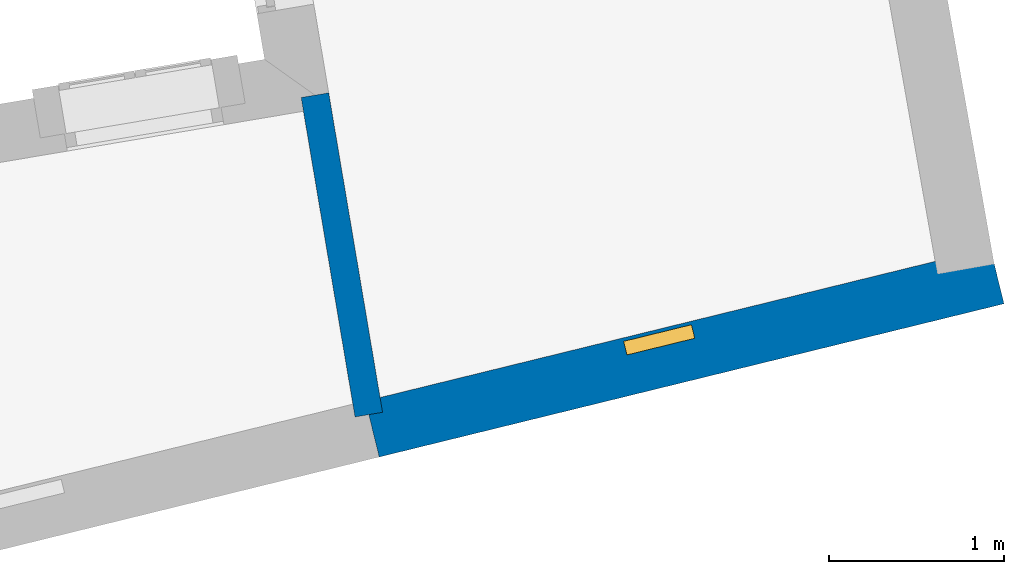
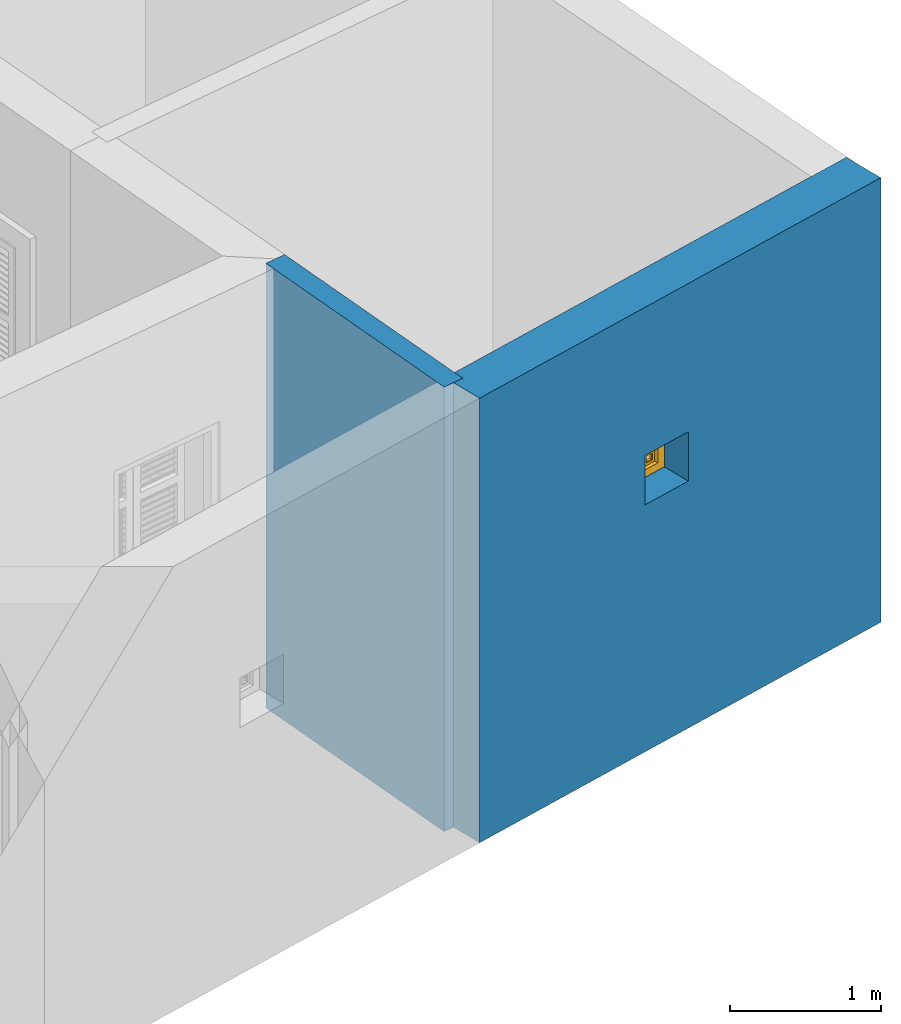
# One storey, part 13 of 15: 2 walls, 1 window, 1 opening.
"""IFC4 building model written with IfcOpenShell, lengths in metres."""

import ifcopenshell
import ifcopenshell.guid

model = None  # the IFC model being written
_history = None  # IfcOwnerHistory: only IFC2X3 demands one
_inside = {}  # id of a spatial element -> (the spatial element, [elements in it])
_under = {}  # id of a project, library or spatial element -> (it, [spatial elements below it])
_declared = {}  # id of a project -> (the project, [libraries it declares])
_typed = {}  # id of a type object -> (the type object, [elements of that type])
_made_of = {}  # id of a material, layer set ... -> (it, [elements and type objects made of it])


def new_model(schema):
    """Start an empty IFC model of exactly this schema.

    Asked for "IFC4X3", IfcOpenShell would pick the latest addendum, in which some entities
    have other attributes; the version numbers below select the first issue.
    IFC2X3 requires an IfcOwnerHistory on every rooted entity: one is made here for all.
    """
    global model, _history
    if schema == "IFC4X3":
        model = ifcopenshell.file(schema_version=(4, 3, 0, 0))
    else:
        model = ifcopenshell.file(schema=schema)
    _inside.clear()
    _under.clear()
    _declared.clear()
    _typed.clear()
    _made_of.clear()
    _history = None
    if model.schema == "IFC2X3":
        org = make("IfcOrganization", Name="unknown")
        user = make(
            "IfcPersonAndOrganization",
            ThePerson=make("IfcPerson", FamilyName="unknown"),
            TheOrganization=org,
        )
        app = make(
            "IfcApplication",
            ApplicationDeveloper=org,
            Version="unknown",
            ApplicationFullName="unknown",
            ApplicationIdentifier="unknown",
        )
        _history = make(
            "IfcOwnerHistory",
            OwningUser=user,
            OwningApplication=app,
            ChangeAction="ADDED",
            CreationDate=0,
        )
    return model


def make(cls, **values):
    """One entity of the class cls with the attributes given. An attribute that is None is left unset."""
    return model.create_entity(
        cls, **{name: value for name, value in values.items() if value is not None}
    )


def rooted(cls, **values):
    """An entity with a GlobalId (a new one), such as an element, a storey or a relation."""
    return make(cls, GlobalId=ifcopenshell.guid.new(), OwnerHistory=_history, **values)


def si_unit(unit_type, name, prefix=None):
    """IfcSIUnit, for example si_unit("LENGTHUNIT", "METRE", prefix="MILLI")."""
    return make("IfcSIUnit", UnitType=unit_type, Prefix=prefix, Name=name)


def assignment(units):
    """IfcUnitAssignment: the units of a project."""
    return None if units is None else make("IfcUnitAssignment", Units=units)


def point(xyz):
    """IfcCartesianPoint."""
    return None if xyz is None else make("IfcCartesianPoint", Coordinates=xyz)


def direction(xyz):
    """IfcDirection."""
    return None if xyz is None else make("IfcDirection", DirectionRatios=xyz)


def frame(location, z_axis=None, x_axis=None):
    """IfcAxis2Placement3D, a coordinate frame: its origin and axes. An axis left out is left unset."""
    return make(
        "IfcAxis2Placement3D",
        Location=point(location),
        Axis=direction(z_axis),
        RefDirection=direction(x_axis),
    )


def origin():
    """The frame at (0, 0, 0) with its axes left unset."""
    return frame((0.0, 0.0, 0.0))


def origin_with_axes():
    """The frame at (0, 0, 0) with the z axis (0, 0, 1) and the x axis (1, 0, 0) written out."""
    return frame((0.0, 0.0, 0.0), z_axis=(0.0, 0.0, 1.0), x_axis=(1.0, 0.0, 0.0))


def place(relative_to, where):
    """IfcLocalPlacement: puts the frame where relative to a parent placement (None: the world)."""
    return make(
        "IfcLocalPlacement", PlacementRelTo=relative_to, RelativePlacement=where
    )


def context(
    kind, dimensions, precision=None, world=None, true_north=None, identifier=None
):
    """IfcGeometricRepresentationContext, for example the 3D "Model" context."""
    return make(
        "IfcGeometricRepresentationContext",
        ContextIdentifier=identifier,
        ContextType=kind,
        CoordinateSpaceDimension=dimensions,
        Precision=precision,
        WorldCoordinateSystem=world,
        TrueNorth=true_north,
    )


def subcontext(parent, identifier, kind, view, scale=None):
    """IfcGeometricRepresentationSubContext, for example "Body" below "Model"."""
    return make(
        "IfcGeometricRepresentationSubContext",
        ContextIdentifier=identifier,
        ContextType=kind,
        ParentContext=parent,
        TargetScale=scale,
        TargetView=view,
    )


def project(units=None, contexts=None):
    """IfcProject with its units and contexts."""
    return rooted(
        "IfcProject",
        Name="project",
        RepresentationContexts=contexts,
        UnitsInContext=assignment(units),
    )


def spatial(cls, under=None, at=None, **own):
    """A site, building, storey or space (cls), placed at a placement, below another one or the project."""
    s = rooted(cls, ObjectPlacement=at, **own)
    if under is not None:
        _under.setdefault(under.id(), (under, []))[1].append(s)
    return s


def polyline(points):
    """IfcPolyline through the points."""
    return make("IfcPolyline", Points=[point(p) for p in points])


def outline(outer, holes=None, kind="AREA"):
    """IfcArbitraryClosedProfileDef: a profile drawn as a closed curve; with holes, ...WithVoids."""
    if holes is None:
        return make("IfcArbitraryClosedProfileDef", ProfileType=kind, OuterCurve=outer)
    return make(
        "IfcArbitraryProfileDefWithVoids",
        ProfileType=kind,
        OuterCurve=outer,
        InnerCurves=holes,
    )


def extrude(swept, where, along, depth):
    """IfcExtrudedAreaSolid: the profile swept, set in the frame where, extruded along a direction by depth."""
    return make(
        "IfcExtrudedAreaSolid",
        SweptArea=swept,
        Position=where,
        ExtrudedDirection=direction(along),
        Depth=depth,
    )


def faces_of(points, faces, orient=None, outer=None):
    """IfcFace entities. A face is a list of loops; a loop is a list of indices into points, from 0.

    orient and outer hold one flag for each loop. By default every Orientation is true, the
    first loop of a face is its IfcFaceOuterBound and the others are IfcFaceBound.
    """
    made = []
    for i, loops in enumerate(faces):
        bounds = []
        for j, loop in enumerate(loops):
            is_outer = j == 0 if outer is None else outer[i][j]
            bounds.append(
                make(
                    "IfcFaceOuterBound" if is_outer else "IfcFaceBound",
                    Bound=make("IfcPolyLoop", Polygon=[points[k] for k in loop]),
                    Orientation=True if orient is None else orient[i][j],
                )
            )
        made.append(make("IfcFace", Bounds=bounds))
    return made


def faceted_brep(points, faces, orient=None, outer=None, voids=None):
    """IfcFacetedBrep: a solid bounded by flat faces; with voids (closed shells), ...WithVoids."""
    shared = [point(p) for p in points]
    hull = make("IfcClosedShell", CfsFaces=faces_of(shared, faces, orient, outer))
    if voids is None:
        return make("IfcFacetedBrep", Outer=hull)
    return make(
        "IfcFacetedBrepWithVoids",
        Outer=hull,
        Voids=[
            make(cls, CfsFaces=faces_of(shared, fs, o, b)) for cls, fs, o, b in voids
        ],
    )


def shape(context_of_items, identifier, shape_type, items):
    """IfcShapeRepresentation: the items that make up one representation, for example the "Body"."""
    return make(
        "IfcShapeRepresentation",
        ContextOfItems=context_of_items,
        RepresentationIdentifier=identifier,
        RepresentationType=shape_type,
        Items=items,
    )


def source(mapping_origin, context_of_items, identifier, shape_type, items):
    """IfcRepresentationMap: a shape defined once, which mapped items show again and again."""
    return make(
        "IfcRepresentationMap",
        MappingOrigin=mapping_origin,
        MappedRepresentation=shape(context_of_items, identifier, shape_type, items),
    )


def transform(
    local_origin,
    x_axis=None,
    y_axis=None,
    z_axis=None,
    scale=None,
    scale2=None,
    scale3=None,
    uniform=True,
):
    """IfcCartesianTransformationOperator3D, or its non-uniform kind. x_axis, y_axis, z_axis: its Axis1, 2, 3."""
    if uniform:
        return make(
            "IfcCartesianTransformationOperator3D",
            Axis1=direction(x_axis),
            Axis2=direction(y_axis),
            LocalOrigin=point(local_origin),
            Scale=scale,
            Axis3=direction(z_axis),
        )
    return make(
        "IfcCartesianTransformationOperator3DnonUniform",
        Axis1=direction(x_axis),
        Axis2=direction(y_axis),
        LocalOrigin=point(local_origin),
        Scale=scale,
        Axis3=direction(z_axis),
        Scale2=scale2,
        Scale3=scale3,
    )


def mapped(mapping_source, mapping_target):
    """IfcMappedItem: shows the shape of a source again, moved by a transform."""
    return make(
        "IfcMappedItem", MappingSource=mapping_source, MappingTarget=mapping_target
    )


def material(Name=None, Category=None):
    """IfcMaterial."""
    return make("IfcMaterial", Name=Name, Category=Category)


def layer(
    of_material, thickness, ventilated=None, Name=None, Category=None, Priority=None
):
    """IfcMaterialLayer: one layer of a wall or slab, of a material (None: an air gap)."""
    return make(
        "IfcMaterialLayer",
        Material=of_material,
        LayerThickness=thickness,
        IsVentilated=ventilated,
        Name=Name,
        Category=Category,
        Priority=Priority,
    )


def layer_set(layers, Name=None):
    """IfcMaterialLayerSet."""
    return make("IfcMaterialLayerSet", MaterialLayers=layers, LayerSetName=Name)


def layer_usage(for_layer_set, set_direction, sense, offset, extent=None):
    """IfcMaterialLayerSetUsage: how a layer set lies in its element."""
    return make(
        "IfcMaterialLayerSetUsage",
        ForLayerSet=for_layer_set,
        LayerSetDirection=set_direction,
        DirectionSense=sense,
        OffsetFromReferenceLine=offset,
        ReferenceExtent=extent,
    )


def made_of(thing, what):
    """Note that an element or type object is made of a material, layer set ...; save() writes the relation."""
    if what is not None:
        _made_of.setdefault(what.id(), (what, []))[1].append(thing)
    return thing


def type_object(cls, material=None, **own):
    """A type object (cls), such as IfcWallType, which elements share."""
    return made_of(rooted(cls, **own), material)


def type_shapes(of_type, sources):
    """Give a type object the sources (RepresentationMaps) that its elements show as mapped items."""
    of_type.RepresentationMaps = sources


def element(
    cls,
    number,
    at=None,
    inside=None,
    cuts=None,
    type_object=None,
    material=None,
    context=None,
    identifier="Body",
    shape_type=None,
    held_by="IfcProductDefinitionShape",
    body=None,
    shapes=None,
    **own,
):
    """One element of the class cls, such as IfcWall. Its Tag is "e" and its number.

    at: its placement. inside: the storey or other place that contains it. cuts: it is an
    opening in that element (IfcRelVoidsElement). A single representation is given by context,
    identifier, shape_type and body (its items); several are given by shapes. held_by: the class
    of the entity that holds the representations. save() writes the other relations.
    """
    e = rooted(cls, Tag="e%d" % number, ObjectPlacement=at, **own)
    if body is not None:
        shapes = [shape(context, identifier, shape_type, body)]
    if shapes is not None:
        e.Representation = make(held_by, Representations=shapes)
    if inside is not None:
        _inside.setdefault(inside.id(), (inside, []))[1].append(e)
    if cuts is not None:
        rooted(
            "IfcRelVoidsElement", RelatingBuildingElement=cuts, RelatedOpeningElement=e
        )
    if type_object is not None:
        _typed.setdefault(type_object.id(), (type_object, []))[1].append(e)
    return made_of(e, material)


def fill(opening, filler):
    """IfcRelFillsElement: the door or window that sits in an opening."""
    return rooted(
        "IfcRelFillsElement",
        RelatingOpeningElement=opening,
        RelatedBuildingElement=filler,
    )


def aggregate(whole, parts):
    """IfcRelAggregates: a whole, such as a stair, and the parts it consists of."""
    return rooted("IfcRelAggregates", RelatingObject=whole, RelatedObjects=parts)


def save(model, path):
    """Write the relations noted so far, then the file.

    IfcRelAggregates (storeys below a building ...), IfcRelContainedInSpatialStructure (elements
    in a storey), IfcRelDefinesByType, IfcRelAssociatesMaterial and IfcRelDeclares: one each for
    every whole, place, type object, material and project.
    """
    for whole, parts in _under.values():
        aggregate(whole, parts)
    for where, things in _inside.values():
        rooted(
            "IfcRelContainedInSpatialStructure",
            RelatedElements=things,
            RelatingStructure=where,
        )
    for kind, things in _typed.values():
        rooted("IfcRelDefinesByType", RelatedObjects=things, RelatingType=kind)
    for what, things in _made_of.values():
        rooted("IfcRelAssociatesMaterial", RelatedObjects=things, RelatingMaterial=what)
    for by, libraries in _declared.values():
        rooted("IfcRelDeclares", RelatingContext=by, RelatedDefinitions=libraries)
    model.write(path)


model = new_model("IFC4")

# Units and contexts
model_context = context("Model", 3, world=origin_with_axes())
body_context = subcontext(model_context, "Body", "Model", "MODEL_VIEW")
ifc_project = project(units=[si_unit("PLANEANGLEUNIT", "RADIAN"), si_unit("MASSUNIT", "GRAM", prefix="KILO"), si_unit("FORCEUNIT", "NEWTON", prefix="KILO"), si_unit("LENGTHUNIT", "METRE"), si_unit("AREAUNIT", "SQUARE_METRE"), si_unit("VOLUMEUNIT", "CUBIC_METRE")], contexts=[model_context, model_context])

# Site, building, storey
site_placement = place(None, origin_with_axes())
site = spatial("IfcSite", under=ifc_project, at=site_placement, Name="Site plot-6", CompositionType="ELEMENT")
building_placement = place(None, origin_with_axes())
building = spatial("IfcBuilding", under=site, at=building_placement, Name="Building plot-6", CompositionType="ELEMENT")
storey_placement = place(None, origin_with_axes())
storey = spatial("IfcBuildingStorey", under=building, at=storey_placement, Name="plot-6 0", CompositionType="ELEMENT", Elevation=0.0)

# Wall, opening, window
ifc_material_1 = material(Name="Masonry")
ifc_layer_1 = layer(ifc_material_1, 0.33, ventilated=False)
ifc_layer_set_1 = layer_set([ifc_layer_1], Name="exterior_0.08_0.25")
ifc_layer_usage_1 = layer_usage(ifc_layer_set_1, "AXIS2", "POSITIVE", -0.25)
wall_type_1 = type_object("IfcWallType", Name="exterior_0.08_0.25", PredefinedType="SOLIDWALL", material=ifc_layer_set_1)
wall_1_placement = place(storey_placement, frame((-2.13361527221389, -1.89135412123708, 0.0), z_axis=(0.0, 0.0, 1.0), x_axis=(0.971213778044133, 0.238209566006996, 0.0)))
wall_1 = element("IfcWall", 1, at=wall_1_placement, inside=storey, type_object=wall_type_1, material=ifc_layer_usage_1, Name="exterior", context=body_context, shape_type="SweptSolid", body=[
    extrude(outline(polyline([(-6.61556863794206e-17, 0.08), (1.81841538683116e-16, -0.25), (3.68558857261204, -0.25), (3.68558857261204, 0.08), (-6.61556863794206e-17, 0.08)])), origin_with_axes(), (0.0, 0.0, 1.0), 3.6),
])
opening_placement = place(wall_1_placement, frame((1.51779428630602, 0.0, 2.0)))
opening = element("IfcOpeningElement", 2, at=opening_placement, cuts=wall_1, Name="My Opening", ObjectType="Opening", context=body_context, shape_type="SweptSolid", body=[
    extrude(outline(polyline([(0.0, -0.27), (0.4, -0.27), (0.4, 1.1), (0.0, 1.1), (0.0, -0.27)])), origin_with_axes(), (0.0, 0.0, 1.0), 0.4),
])
window_type = type_object("IfcWindowType", Name="barred_window", PartitioningType="DOUBLE_PANEL_HORIZONTAL", PredefinedType="NOTDEFINED")
shared_shape = source(origin(), body_context, "Body", "Brep", [
    faceted_brep([(0.4, 0.25, 0.4), (0.0, 0.25, 0.4), (0.06, 0.25, 0.34), (0.34, 0.25, 0.34), (0.06, 0.33, 0.34), (0.34, 0.33, 0.34), (0.34, 0.25, 0.06), (0.4, 0.25, 0.0), (0.4, 0.33, 0.4), (0.0, 0.33, 0.4), (0.0, 0.25, 0.0), (0.06, 0.25, 0.06), (0.06, 0.33, 0.06), (0.34, 0.33, 0.06), (0.4, 0.33, 0.0), (0.0, 0.33, 0.0), (0.136152, 0.28, 0.08), (0.08, 0.28, 0.08), (0.06, 0.28, 0.06), (0.136152, 0.28, 0.06), (0.136152, 0.29, 0.08), (0.08, 0.29, 0.08), (0.06, 0.28, 0.136152), (0.08, 0.28, 0.136152), (0.06, 0.29, 0.06), (0.136152, 0.29, 0.06), (0.170294, 0.28, 0.08), (0.170294, 0.28, 0.06), (0.136152, 0.28, 0.136152), (0.136152, 0.29, 0.136152), (0.08, 0.29, 0.136152), (0.06, 0.29, 0.136152), (0.08, 0.28, 0.170294), (0.06, 0.28, 0.170294), (0.170294, 0.29, 0.06), (0.229706, 0.28, 0.08), (0.229706, 0.28, 0.06), (0.156152, 0.28, 0.094142), (0.156152, 0.28, 0.136152), (0.185858, 0.28, 0.123848), (0.185858, 0.29, 0.123848), (0.156152, 0.29, 0.094142), (0.156152, 0.29, 0.136152), (0.229706, 0.29, 0.08), (0.170294, 0.29, 0.08), (0.2, 0.28, 0.109706), (0.2, 0.29, 0.109706), (0.06, 0.29, 0.170294), (0.094142, 0.28, 0.156152), (0.08, 0.28, 0.229706), (0.06, 0.28, 0.229706), (0.229706, 0.29, 0.06), (0.263848, 0.28, 0.08), (0.263848, 0.28, 0.06), (0.156152, 0.28, 0.156152), (0.136152, 0.28, 0.156152), (0.173553, 0.28, 0.136152), (0.173553, 0.29, 0.136152), (0.156152, 0.29, 0.156152), (0.136152, 0.29, 0.156152), (0.094142, 0.29, 0.156152), (0.08, 0.29, 0.170294), (0.06, 0.29, 0.229706), (0.123848, 0.28, 0.185858), (0.109706, 0.28, 0.2), (0.08, 0.29, 0.229706), (0.08, 0.28, 0.263848), (0.06, 0.28, 0.263848), (0.263848, 0.29, 0.06), (0.2, 0.28, 0.13799), (0.214142, 0.28, 0.123848), (0.34, 0.28, 0.06), (0.32, 0.28, 0.08), (0.181838, 0.28, 0.156152), (0.136152, 0.28, 0.173553), (0.156152, 0.28, 0.181838), (0.181838, 0.29, 0.156152), (0.2, 0.29, 0.13799), (0.214142, 0.29, 0.123848), (0.136152, 0.29, 0.173553), (0.156152, 0.29, 0.181838), (0.243848, 0.28, 0.094142), (0.243848, 0.29, 0.094142), (0.263848, 0.28, 0.136152), (0.263848, 0.29, 0.08), (0.263848, 0.29, 0.136152), (0.32, 0.29, 0.08), (0.243848, 0.28, 0.136152), (0.243848, 0.29, 0.136152), (0.06, 0.29, 0.263848), (0.123848, 0.29, 0.185858), (0.13799, 0.28, 0.2), (0.123848, 0.28, 0.214142), (0.109706, 0.29, 0.2), (0.094142, 0.28, 0.243848), (0.08, 0.28, 0.32), (0.06, 0.28, 0.34), (0.34, 0.29, 0.06), (0.218162, 0.28, 0.156152), (0.226447, 0.28, 0.136152), (0.34, 0.28, 0.229706), (0.32, 0.28, 0.229706), (0.32, 0.28, 0.170294), (0.32, 0.28, 0.136152), (0.218162, 0.29, 0.156152), (0.226447, 0.29, 0.136152), (0.13799, 0.29, 0.2), (0.32, 0.29, 0.136152), (0.08, 0.29, 0.263848), (0.06, 0.29, 0.34), (0.136152, 0.28, 0.226447), (0.156152, 0.28, 0.218162), (0.094142, 0.29, 0.243848), (0.123848, 0.29, 0.214142), (0.136152, 0.28, 0.243848), (0.136152, 0.28, 0.263848), (0.08, 0.29, 0.32), (0.136152, 0.28, 0.34), (0.136152, 0.28, 0.32), (0.34, 0.29, 0.229706), (0.243848, 0.28, 0.156152), (0.263848, 0.28, 0.156152), (0.34, 0.28, 0.263848), (0.32, 0.28, 0.263848), (0.32, 0.29, 0.229706), (0.32, 0.29, 0.170294), (0.290294, 0.28, 0.2), (0.276152, 0.28, 0.185858), (0.305858, 0.28, 0.156152), (0.243848, 0.29, 0.156152), (0.263848, 0.29, 0.156152), (0.305858, 0.29, 0.156152), (0.276152, 0.29, 0.185858), (0.290294, 0.29, 0.2), (0.136152, 0.29, 0.34), (0.136152, 0.29, 0.226447), (0.156152, 0.29, 0.218162), (0.156152, 0.28, 0.243848), (0.136152, 0.29, 0.243848), (0.156152, 0.28, 0.263848), (0.136152, 0.29, 0.263848), (0.136152, 0.29, 0.32), (0.170294, 0.28, 0.32), (0.170294, 0.28, 0.34), (0.34, 0.29, 0.263848), (0.243848, 0.28, 0.181838), (0.263848, 0.28, 0.173553), (0.34, 0.28, 0.34), (0.32, 0.28, 0.32), (0.305858, 0.28, 0.243848), (0.276152, 0.28, 0.214142), (0.26201, 0.28, 0.2), (0.243848, 0.29, 0.181838), (0.263848, 0.29, 0.173553), (0.26201, 0.29, 0.2), (0.276152, 0.29, 0.214142), (0.32, 0.29, 0.263848), (0.170294, 0.29, 0.34), (0.156152, 0.29, 0.243848), (0.173553, 0.28, 0.263848), (0.181838, 0.28, 0.243848), (0.156152, 0.28, 0.305858), (0.229706, 0.28, 0.32), (0.229706, 0.28, 0.34), (0.34, 0.29, 0.34), (0.263848, 0.28, 0.34), (0.263848, 0.28, 0.32), (0.32, 0.29, 0.32), (0.263848, 0.28, 0.263848), (0.263848, 0.28, 0.243848), (0.305858, 0.29, 0.243848), (0.263848, 0.28, 0.226447), (0.243848, 0.28, 0.218162), (0.243848, 0.29, 0.218162), (0.263848, 0.29, 0.226447), (0.156152, 0.29, 0.263848), (0.170294, 0.29, 0.32), (0.229706, 0.29, 0.34), (0.181838, 0.29, 0.243848), (0.173553, 0.29, 0.263848), (0.185858, 0.28, 0.276152), (0.2, 0.28, 0.26201), (0.156152, 0.29, 0.305858), (0.229706, 0.29, 0.32), (0.263848, 0.29, 0.34), (0.263848, 0.29, 0.32), (0.263848, 0.29, 0.263848), (0.243848, 0.28, 0.243848), (0.243848, 0.28, 0.263848), (0.263848, 0.29, 0.243848), (0.243848, 0.29, 0.243848), (0.2, 0.29, 0.26201), (0.185858, 0.29, 0.276152), (0.214142, 0.28, 0.276152), (0.218162, 0.28, 0.243848), (0.226447, 0.28, 0.263848), (0.243848, 0.28, 0.305858), (0.2, 0.28, 0.290294), (0.2, 0.29, 0.290294), (0.243848, 0.29, 0.263848), (0.218162, 0.29, 0.243848), (0.214142, 0.29, 0.276152), (0.226447, 0.29, 0.263848), (0.243848, 0.29, 0.305858)], [[[0, 1, 2, 3]], [[3, 2, 4, 5]], [[3, 6, 7, 0]], [[1, 0, 8, 9]], [[1, 10, 11, 2]], [[2, 11, 12, 4]], [[9, 8, 5, 4]], [[6, 3, 5, 13]], [[6, 11, 10, 7]], [[0, 7, 14, 8]], [[10, 1, 9, 15]], [[11, 6, 13, 12]], [[4, 12, 15, 9]], [[8, 14, 13, 5]], [[7, 10, 15, 14]], [[12, 13, 14, 15]], [[16, 17, 18, 19]], [[17, 16, 20, 21]], [[22, 18, 17, 23]], [[19, 18, 24, 25]], [[26, 16, 19, 27]], [[16, 28, 29, 20]], [[21, 20, 25, 24]], [[23, 17, 21, 30]], [[18, 22, 31, 24]], [[23, 32, 33, 22]], [[27, 19, 25, 34]], [[35, 26, 27, 36]], [[28, 16, 37, 38]], [[37, 39, 40, 41]], [[38, 37, 41, 42]], [[20, 29, 42, 41]], [[26, 35, 43, 44]], [[45, 26, 44, 46]], [[20, 44, 34, 25]], [[28, 23, 30, 29]], [[24, 31, 30, 21]], [[22, 33, 47, 31]], [[48, 32, 23]], [[32, 49, 50, 33]], [[36, 27, 34, 51]], [[39, 37, 26, 45]], [[52, 35, 36, 53]], [[38, 54, 55, 28]], [[39, 56, 57, 40]], [[41, 40, 46, 44]], [[56, 38, 42, 57]], [[58, 42, 29, 59]], [[35, 45, 46, 43]], [[44, 43, 51, 34]], [[23, 28, 55, 48]], [[29, 30, 60, 59]], [[61, 30, 31, 47]], [[33, 50, 62, 47]], [[48, 63, 64, 32]], [[49, 32, 61, 65]], [[49, 66, 67, 50]], [[53, 36, 51, 68]], [[69, 39, 45, 70]], [[53, 71, 72, 52]], [[73, 54, 38, 56]], [[74, 55, 54, 75]], [[56, 39, 69, 73]], [[40, 57, 76, 77]], [[40, 77, 78, 46]], [[58, 76, 57, 42]], [[59, 79, 80, 58]], [[45, 35, 81, 70]], [[43, 46, 78, 82]], [[83, 52, 84, 85]], [[82, 84, 43]], [[52, 72, 86, 84]], [[43, 84, 68, 51]], [[44, 20, 41]], [[70, 81, 82, 78]], [[81, 87, 88, 82]], [[48, 55, 59, 60]], [[61, 60, 30]], [[65, 61, 47, 62]], [[50, 67, 89, 62]], [[63, 48, 60, 90]], [[63, 91, 92, 64]], [[32, 64, 93, 61]], [[64, 49, 65, 93]], [[94, 66, 49]], [[66, 95, 96, 67]], [[71, 53, 68, 97]], [[98, 69, 70, 99]], [[81, 52, 83, 87]], [[72, 71, 100]], [[100, 101, 102]], [[103, 72, 100]], [[100, 102, 103]], [[54, 73, 76, 58]], [[55, 74, 79, 59]], [[75, 54, 58, 80]], [[63, 74, 75, 91]], [[73, 69, 77, 76]], [[77, 104, 105, 78]], [[79, 90, 106, 80]], [[84, 82, 88, 85]], [[103, 83, 85, 107]], [[72, 103, 107, 86]], [[97, 68, 84, 86]], [[99, 70, 78, 105]], [[87, 99, 105, 88]], [[90, 60, 61, 93]], [[108, 65, 62, 89]], [[67, 96, 109, 89]], [[74, 63, 90, 79]], [[110, 92, 91, 111]], [[49, 64, 92, 94]], [[93, 65, 112, 113]], [[94, 114, 115, 66]], [[95, 66, 108, 116]], [[117, 96, 95, 118]], [[100, 71, 97, 119]], [[69, 98, 104, 77]], [[99, 87, 120, 98]], [[87, 83, 121, 120]], [[101, 100, 122, 123]], [[102, 101, 124, 125]], [[121, 83, 103]], [[103, 102, 126]], [[126, 127, 128]], [[128, 121, 103]], [[103, 126, 128]], [[91, 75, 80, 106]], [[88, 105, 104, 129]], [[106, 90, 93, 113]], [[85, 88, 129, 130]], [[107, 85, 130]], [[131, 132, 133]], [[107, 130, 131]], [[133, 125, 107]], [[107, 131, 133]], [[124, 119, 97]], [[97, 86, 107]], [[107, 125, 124]], [[97, 107, 124]], [[108, 112, 65]], [[116, 108, 89, 109]], [[96, 117, 134, 109]], [[92, 110, 135, 113]], [[111, 91, 106, 136]], [[114, 110, 111, 137]], [[94, 92, 113, 112]], [[114, 94, 112, 138]], [[114, 137, 139, 115]], [[66, 115, 140, 108]], [[118, 95, 116, 141]], [[118, 142, 143, 117]], [[122, 100, 119, 144]], [[98, 120, 129, 104]], [[145, 120, 121, 146]], [[122, 147, 148, 123]], [[123, 149, 101]], [[101, 126, 133, 124]], [[126, 102, 125, 133]], [[127, 126, 150, 151]], [[128, 127, 132, 131]], [[121, 128, 131, 130]], [[113, 135, 136, 106]], [[129, 152, 153, 130]], [[133, 132, 154, 155]], [[119, 124, 156, 144]], [[138, 112, 108, 140]], [[109, 134, 141, 116]], [[117, 143, 157, 134]], [[110, 114, 138, 135]], [[137, 111, 136, 158]], [[159, 139, 137, 160]], [[118, 115, 139, 161]], [[115, 118, 141, 140]], [[161, 142, 118]], [[162, 163, 143, 142]], [[147, 122, 144, 164]], [[120, 145, 152, 129]], [[146, 121, 130, 153]], [[146, 127, 151, 145]], [[147, 165, 166, 148]], [[123, 148, 167, 156]], [[149, 123, 168, 169]], [[149, 150, 126, 101]], [[155, 170, 124, 133]], [[151, 150, 171, 172]], [[127, 146, 153, 132]], [[135, 138, 158, 136]], [[132, 153, 152, 154]], [[155, 154, 173, 174]], [[170, 156, 124]], [[164, 144, 156, 167]], [[158, 138, 140, 175]], [[176, 141, 134, 157]], [[143, 163, 177, 157]], [[160, 137, 158, 178]], [[139, 159, 179, 175]], [[180, 159, 160, 181]], [[161, 139, 175, 182]], [[140, 141, 182, 175]], [[166, 165, 163, 162]], [[162, 142, 176, 183]], [[165, 147, 164, 184]], [[145, 151, 154, 152]], [[148, 166, 185, 167]], [[156, 186, 168, 123]], [[187, 169, 168, 188]], [[149, 169, 189, 170]], [[150, 149, 170, 155]], [[171, 150, 155, 174]], [[171, 169, 187, 172]], [[151, 172, 173, 154]], [[189, 174, 173, 190]], [[156, 170, 189, 186]], [[184, 164, 167, 185]], [[175, 179, 178, 158]], [[176, 182, 141]], [[177, 183, 176, 157]], [[163, 165, 184, 177]], [[181, 160, 178, 191]], [[159, 180, 192, 179]], [[180, 161, 182, 192]], [[193, 181, 194, 195]], [[196, 162, 197, 193]], [[180, 197, 142, 161]], [[197, 180, 181, 193]], [[142, 197, 198, 176]], [[162, 196, 166]], [[35, 52, 81]], [[197, 162, 183, 198]], [[185, 166, 168, 186]], [[196, 188, 168, 166]], [[187, 188, 195, 194]], [[169, 171, 174, 189]], [[172, 187, 190, 173]], [[189, 190, 199, 186]], [[184, 185, 183, 177]], [[179, 192, 191, 178]], [[176, 198, 192, 182]], [[194, 181, 191, 200]], [[191, 192, 198, 201]], [[26, 37, 16]], [[193, 195, 202, 201]], [[196, 193, 201, 203]], [[191, 201, 202, 200]], [[183, 203, 201, 198]], [[188, 196, 203, 199]], [[203, 183, 185]], [[199, 203, 185, 186]], [[195, 188, 199, 202]], [[187, 194, 200, 190]], [[199, 190, 200, 202]]]),
])
type_shapes(window_type, [shared_shape])
window_placement = place(storey_placement, frame((-0.595195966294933, -1.79202872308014, 2.0), z_axis=(0.0, 0.0, 1.0), x_axis=(0.388485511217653, 0.0952838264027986, 0.0)))
window = element("IfcWindow", 3, at=window_placement, inside=storey, type_object=window_type, Name="bedroom street window", OverallHeight=0.4, OverallWidth=0.4, context=body_context, shape_type="MappedRepresentation", body=[
    mapped(shared_shape, transform((0.0, 0.0, 0.0), scale=1.0)),
])
fill(opening, window)

# Wall
ifc_material_2 = material(Name="Masonry")
ifc_layer_2 = layer(ifc_material_2, 0.16, ventilated=False)
ifc_layer_set_2 = layer_set([ifc_layer_2], Name="interior_0.08_0.08")
ifc_layer_usage_2 = layer_usage(ifc_layer_set_2, "AXIS2", "POSITIVE", -0.08)
wall_type_2 = type_object("IfcWallType", Name="interior_0.08_0.08", PredefinedType="SOLIDWALL", material=ifc_layer_set_2)
wall_2_placement = place(storey_placement, frame((-2.44228456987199, -0.0610171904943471, 0.0), z_axis=(0.0, 0.0, 1.0), x_axis=(0.166292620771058, -0.986076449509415, 0.0)))
element("IfcWall", 4, at=wall_2_placement, inside=storey, type_object=wall_type_2, material=ifc_layer_usage_2, Name="interior", context=body_context, shape_type="SweptSolid", body=[
    extrude(outline(polyline([(4.89858719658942e-18, 0.0800000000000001), (-1.46957615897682e-17, -0.0800000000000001), (1.85618156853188, -0.0800000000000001), (1.85618156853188, 0.0800000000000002), (4.89858719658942e-18, 0.0800000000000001)])), origin_with_axes(), (0.0, 0.0, 1.0), 3.6),
])

save(model, "model.ifc")
